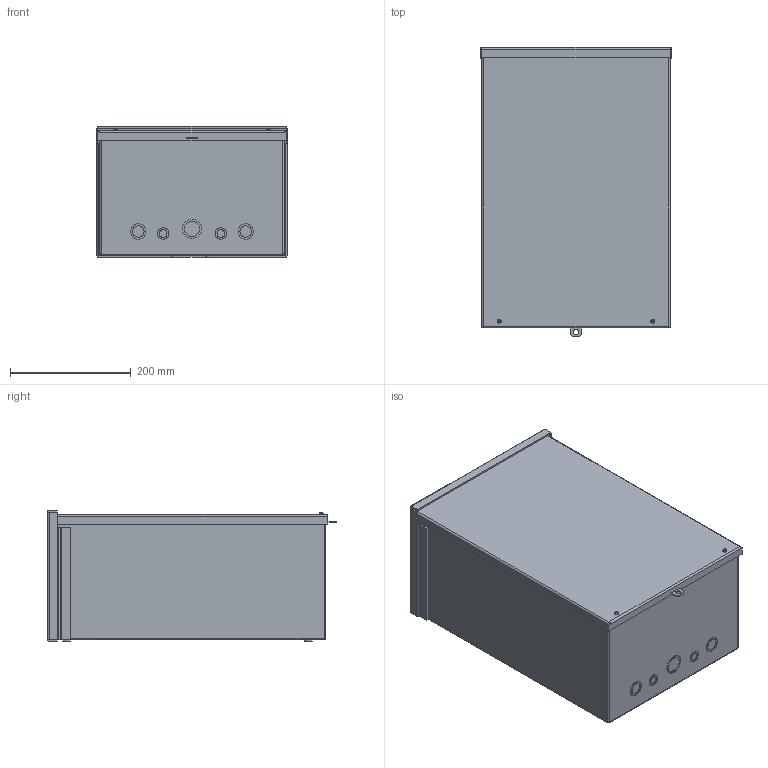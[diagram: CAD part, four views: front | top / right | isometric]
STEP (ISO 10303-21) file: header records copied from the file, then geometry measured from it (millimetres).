
FILE_DESCRIPTION((''),'1');
FILE_NAME('21','2001-04-17T',('jlue'),(''),'PRO/ENGINEER BY PARAMETRIC TECHNOLOGY CORPORATION, 9846','PRO/ENGINEER BY PARAMETRIC TECHNOLOGY CORPORATION, 9846','');
FILE_SCHEMA(('CONFIG_CONTROL_DESIGN'));
Length unit declared in the file: inch
Products named in the file (1): 21
Bounding box: 317.5 x 478.28 x 217.3 mm (x, y, z)
Surface area: 1284496.6 mm2 (no closed solid volume)
Topology: 0 solids, 0 shells, 180 faces, 931 edges, 944 vertices
Faces by surface type: plane 101, cylinder 71, sphere 8
Entity records: 4779 total; most frequent: DIRECTION 972, COMPOSITE_CURVE_SEGMENT 886, CARTESIAN_POINT 758, TRIMMED_CURVE 454, AXIS2_PLACEMENT_3D 338, VECTOR 296, LINE 296, CURVE_BOUNDED_SURFACE 180
